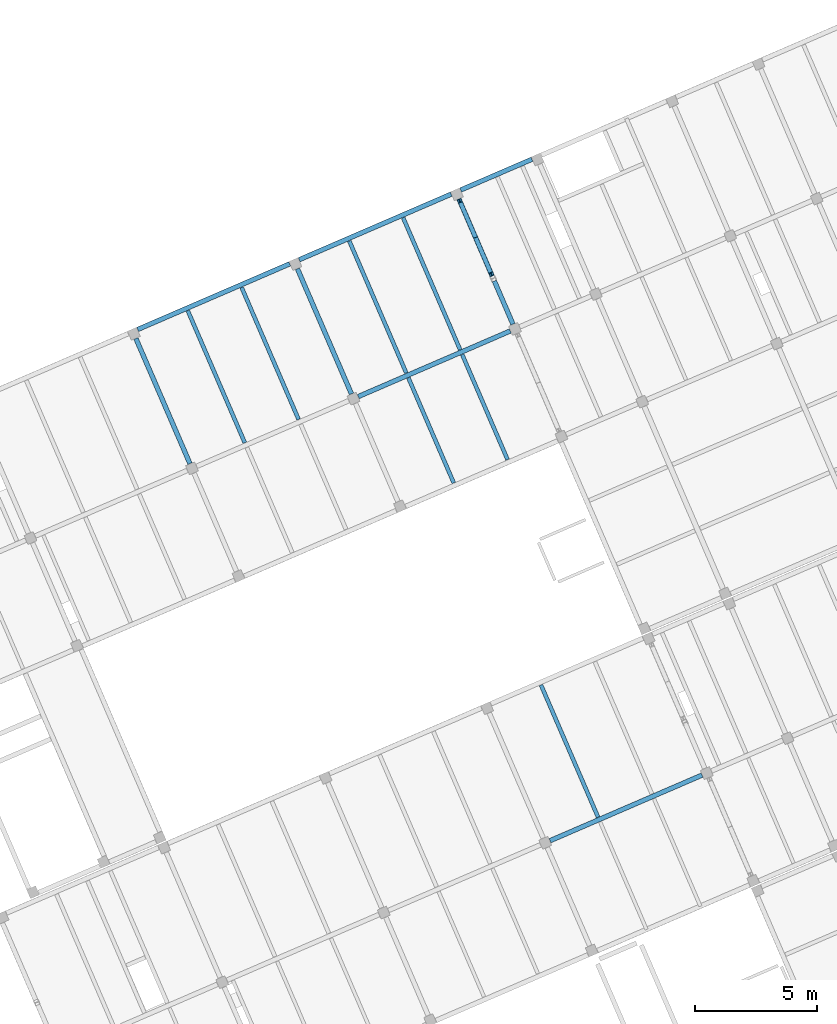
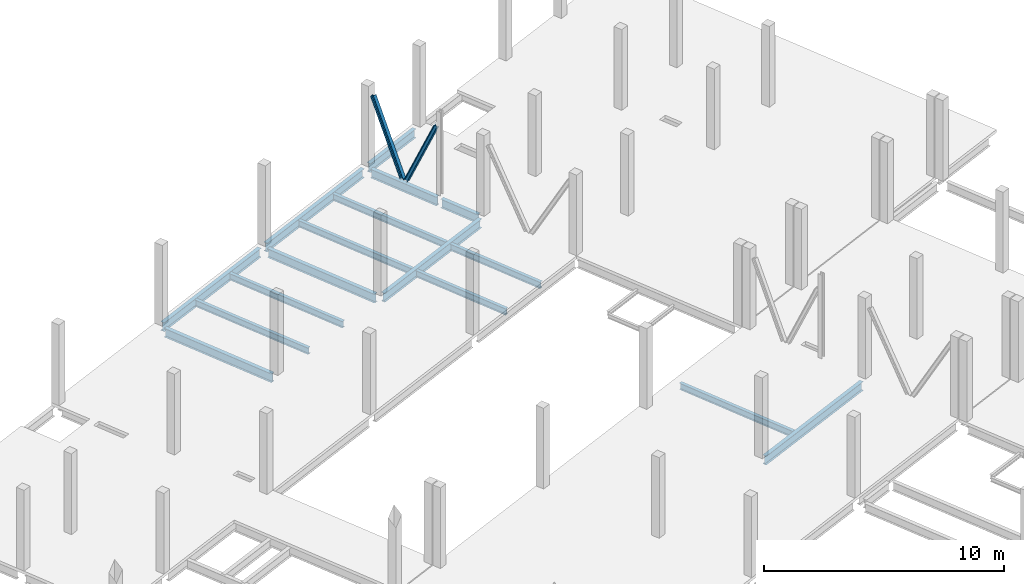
# One storey, part 16 of 24: 16 beams, 2 members.
"""IFC4 building model written with IfcOpenShell, lengths in metres."""

from ifc_helpers import new_model, entity, si_unit, converted_unit, derived_unit, direction, frame, origin, place, context, subcontext, project, spatial, line, arc, indexed_curve, outline, extrude, source, transform, mapped, material, type_object, type_shapes, element, save


model = new_model("IFC4")

# Units and contexts
model_context = context("Model", 3, precision=1e-05, world=origin(), true_north=direction((6.12323399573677e-17, 1.0)))
body_context = subcontext(model_context, "Body", "Model", "MODEL_VIEW")
ifc_project = project(units=[si_unit("LENGTHUNIT", "METRE"), si_unit("AREAUNIT", "SQUARE_METRE"), si_unit("VOLUMEUNIT", "CUBIC_METRE"), converted_unit("PLANEANGLEUNIT", "DEGREE", entity("IfcPlaneAngleMeasure", 0.0174532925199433), si_unit("PLANEANGLEUNIT", "RADIAN"), dimensions=[0, 0, 0, 0, 0, 0, 0]), si_unit("MASSUNIT", "GRAM", prefix="KILO"), derived_unit("MOMENTOFINERTIAUNIT", [(si_unit("LENGTHUNIT", "METRE"), 4)]), derived_unit("LINEARFORCEUNIT", [(si_unit("MASSUNIT", "GRAM", prefix="KILO"), 1), (si_unit("TIMEUNIT", "SECOND"), -2)]), derived_unit("WARPINGCONSTANTUNIT", [(si_unit("LENGTHUNIT", "METRE"), 6)]), derived_unit("THERMALTRANSMITTANCEUNIT", [(si_unit("MASSUNIT", "GRAM", prefix="KILO"), 1), (si_unit("THERMODYNAMICTEMPERATUREUNIT", "KELVIN"), -1), (si_unit("TIMEUNIT", "SECOND"), -3)]), derived_unit("USERDEFINED", [(si_unit("MASSUNIT", "GRAM", prefix="KILO"), 1), (si_unit("TIMEUNIT", "SECOND"), -2), (si_unit("THERMODYNAMICTEMPERATUREUNIT", "KELVIN"), -1)]), derived_unit("THERMALRESISTANCEUNIT", [(si_unit("MASSUNIT", "GRAM", prefix="KILO"), -1), (si_unit("TIMEUNIT", "SECOND"), 3), (si_unit("THERMODYNAMICTEMPERATUREUNIT", "KELVIN"), 1)])], contexts=[model_context])

# Site, building, storey
site_placement = place(None, origin())
site = spatial("IfcSite", under=ifc_project, at=site_placement, Name="Default", CompositionType="ELEMENT")
building_placement = place(site_placement, frame((12.6613425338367, -82.5732315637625, 317.15), z_axis=(0.0, 0.0, 1.0), x_axis=(-0.396377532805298, 0.918087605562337, 0.0)))
building = spatial("IfcBuilding", under=site, at=building_placement, Name="CESFAM Coyhaique", CompositionType="ELEMENT")
storey_placement = place(building_placement, frame((0.0, 0.0, 4.20000000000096)))
storey = spatial("IfcBuildingStorey", under=building, at=storey_placement, Name="Nivel 2", CompositionType="ELEMENT", Elevation=4.20000000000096)

# Beams
ifc_material = material(Name="Steel, 45-345", Category="Metal")
beam_type_1 = type_object("IfcBeamType", Name="M_W Shapes:W450X190mm", PredefinedType="BEAM", material=ifc_material)
shared_shape_1 = source(origin(), body_context, "Body", "SweptSolid", [
    extrude(outline(indexed_curve([(-0.0950000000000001, -0.225000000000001), (0.0950000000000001, -0.225000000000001), (0.0950000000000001, -0.21535), (0.0105699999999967, -0.21535), (0.00516063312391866, -0.213109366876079), (0.00291999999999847, -0.2077), (0.00291999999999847, 0.207699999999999), (0.00516063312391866, 0.213109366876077), (0.0105700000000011, 0.21535), (0.0950000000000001, 0.21535), (0.0950000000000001, 0.224999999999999), (-0.0950000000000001, 0.224999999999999), (-0.0950000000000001, 0.21535), (-0.0105700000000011, 0.215349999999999), (-0.00516063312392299, 0.213109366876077), (-0.0029200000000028, 0.207699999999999), (-0.0029200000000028, -0.2077), (-0.00516063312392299, -0.213109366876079), (-0.0105700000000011, -0.21535), (-0.0950000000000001, -0.21535)], segments=[line(1, 2, 3, 4), arc(4, 5, 6), line(6, 7), arc(7, 8, 9), line(9, 10, 11, 12, 13, 14), arc(14, 15, 16), line(16, 17), arc(17, 18, 19), line(19, 20, 1)], self_intersect=False)), frame((28.7688534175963, -11.384449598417, 3.82500000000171), z_axis=(0.0, 1.0, 0.0), x_axis=(-1.0, 0.0, 0.0)), (0.0, 0.0, 1.0), 6.7746),
])
type_shapes(beam_type_1, [shared_shape_1])
beam_1_placement = place(storey_placement, frame((0.0, 0.0, -4.20000000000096)))
element("IfcBeam", 1, at=beam_1_placement, inside=storey, type_object=beam_type_1, Name="M_W Shapes:W450X190mm", ObjectType="M_W Shapes:W450X190mm", PredefinedType="BEAM", context=body_context, shape_type="MappedRepresentation", body=[
    mapped(shared_shape_1, transform((0.0, 0.0, 0.0), scale=1.0)),
])
beam_type_2 = type_object("IfcBeamType", Name="M_W Shapes:W450X190mm", PredefinedType="BEAM", material=ifc_material)
shared_shape_2 = source(origin(), body_context, "Body", "SweptSolid", [
    extrude(outline(indexed_curve([(-0.0950000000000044, -0.225000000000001), (0.0949999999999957, -0.225000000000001), (0.0950000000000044, -0.21535), (0.0105699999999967, -0.21535), (0.00516063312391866, -0.213109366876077), (0.0029200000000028, -0.2077), (0.00291999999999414, 0.207699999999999), (0.00516063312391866, 0.213109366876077), (0.0105699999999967, 0.21535), (0.0949999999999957, 0.21535), (0.0949999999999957, 0.224999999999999), (-0.0950000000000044, 0.224999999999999), (-0.0950000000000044, 0.21535), (-0.0105700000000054, 0.215349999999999), (-0.00516063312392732, 0.213109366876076), (-0.0029200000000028, 0.207699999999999), (-0.0029200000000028, -0.2077), (-0.00516063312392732, -0.213109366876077), (-0.0105699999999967, -0.21535), (-0.0950000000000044, -0.21535)], segments=[line(1, 2, 3, 4), arc(4, 5, 6), line(6, 7), arc(7, 8, 9), line(9, 10, 11, 12, 13, 14), arc(14, 15, 16), line(16, 17), arc(17, 18, 19), line(19, 20, 1)], self_intersect=False)), frame((48.5688534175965, -11.384449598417, 3.82500000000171), z_axis=(0.0, 1.0, 0.0), x_axis=(-1.0, 0.0, 0.0)), (0.0, 0.0, 1.0), 6.7746),
])
type_shapes(beam_type_2, [shared_shape_2])
beam_2_placement = place(storey_placement, frame((0.0, 0.0, -4.20000000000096)))
element("IfcBeam", 2, at=beam_2_placement, inside=storey, type_object=beam_type_2, Name="M_W Shapes:W450X190mm", ObjectType="M_W Shapes:W450X190mm", PredefinedType="BEAM", context=body_context, shape_type="MappedRepresentation", body=[
    mapped(shared_shape_2, transform((0.0, 0.0, 0.0), scale=1.0)),
])
beam_type_3 = type_object("IfcBeamType", Name="M_W Shapes:W450X190mm", PredefinedType="BEAM", material=ifc_material)
shared_shape_3 = source(origin(), body_context, "Body", "SweptSolid", [
    extrude(outline(indexed_curve([(-0.0949999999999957, -0.225000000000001), (0.0950000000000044, -0.225000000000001), (0.0950000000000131, -0.21535), (0.0105700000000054, -0.21535), (0.00516063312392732, -0.213109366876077), (0.00292000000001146, -0.2077), (0.0029200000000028, 0.207699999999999), (0.00516063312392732, 0.213109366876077), (0.0105700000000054, 0.21535), (0.0950000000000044, 0.21535), (0.0950000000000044, 0.224999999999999), (-0.0949999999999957, 0.224999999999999), (-0.0949999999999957, 0.21535), (-0.0105699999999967, 0.215349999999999), (-0.00516063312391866, 0.213109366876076), (-0.00291999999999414, 0.207699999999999), (-0.00291999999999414, -0.2077), (-0.00516063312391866, -0.213109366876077), (-0.0105699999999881, -0.21535), (-0.0949999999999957, -0.21535)], segments=[line(1, 2, 3, 4), arc(4, 5, 6), line(6, 7), arc(7, 8, 9), line(9, 10, 11, 12, 13, 14), arc(14, 15, 16), line(16, 17), arc(17, 18, 19), line(19, 20, 1)], self_intersect=False)), frame((54.6688534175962, -11.384449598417, 3.82500000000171), z_axis=(0.0, 1.0, 0.0), x_axis=(-1.0, 0.0, 0.0)), (0.0, 0.0, 1.0), 6.7746),
])
type_shapes(beam_type_3, [shared_shape_3])
beam_3_placement = place(storey_placement, frame((0.0, 0.0, -4.20000000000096)))
element("IfcBeam", 3, at=beam_3_placement, inside=storey, type_object=beam_type_3, Name="M_W Shapes:W450X190mm", ObjectType="M_W Shapes:W450X190mm", PredefinedType="BEAM", context=body_context, shape_type="MappedRepresentation", body=[
    mapped(shared_shape_3, transform((0.0, 0.0, 0.0), scale=1.0)),
])
beam_type_4 = type_object("IfcBeamType", Name="M_W Shapes:W450X190mm", PredefinedType="BEAM", material=ifc_material)
shared_shape_4 = source(origin(), body_context, "Body", "SweptSolid", [
    extrude(outline(indexed_curve([(-0.0949999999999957, -0.225000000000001), (0.0950000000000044, -0.225000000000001), (0.0950000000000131, -0.21535), (0.0105700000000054, -0.21535), (0.00516063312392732, -0.213109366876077), (0.00292000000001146, -0.2077), (0.0029200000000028, 0.207699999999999), (0.00516063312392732, 0.213109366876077), (0.0105700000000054, 0.21535), (0.0950000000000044, 0.21535), (0.0950000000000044, 0.224999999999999), (-0.0949999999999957, 0.224999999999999), (-0.0949999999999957, 0.21535), (-0.0105699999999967, 0.215349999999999), (-0.00516063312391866, 0.213109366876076), (-0.00291999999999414, 0.207699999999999), (-0.00291999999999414, -0.2077), (-0.00516063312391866, -0.213109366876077), (-0.0105699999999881, -0.21535), (-0.0949999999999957, -0.21535)], segments=[line(1, 2, 3, 4), arc(4, 5, 6), line(6, 7), arc(7, 8, 9), line(9, 10, 11, 12, 13, 14), arc(14, 15, 16), line(16, 17), arc(17, 18, 19), line(19, 20, 1)], self_intersect=False)), frame((54.6688534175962, -14.9844495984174, 3.82500000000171), z_axis=(0.0, 1.0, 0.0), x_axis=(-1.0, 0.0, 0.0)), (0.0, 0.0, 1.0), 3.1746),
])
type_shapes(beam_type_4, [shared_shape_4])
beam_4_placement = place(storey_placement, frame((0.0, 0.0, -4.20000000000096)))
element("IfcBeam", 4, at=beam_4_placement, inside=storey, type_object=beam_type_4, Name="M_W Shapes:W450X190mm", ObjectType="M_W Shapes:W450X190mm", PredefinedType="BEAM", context=body_context, shape_type="MappedRepresentation", body=[
    mapped(shared_shape_4, transform((0.0, 0.0, 0.0), scale=1.0)),
])
beam_type_5 = type_object("IfcBeamType", Name="M_W Shapes:W450X190mm", PredefinedType="BEAM", material=ifc_material)
shared_shape_5 = source(origin(), body_context, "Body", "SweptSolid", [
    extrude(outline(indexed_curve([(-0.0950000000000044, -0.225000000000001), (0.0949999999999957, -0.225000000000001), (0.0950000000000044, -0.21535), (0.0105699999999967, -0.21535), (0.00516063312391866, -0.213109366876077), (0.0029200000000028, -0.2077), (0.00291999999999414, 0.207699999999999), (0.00516063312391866, 0.213109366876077), (0.0105699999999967, 0.21535), (0.0949999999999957, 0.21535), (0.0949999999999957, 0.224999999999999), (-0.0950000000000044, 0.224999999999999), (-0.0950000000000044, 0.21535), (-0.0105700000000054, 0.215349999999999), (-0.00516063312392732, 0.213109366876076), (-0.0029200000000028, 0.207699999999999), (-0.0029200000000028, -0.2077), (-0.00516063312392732, -0.213109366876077), (-0.0105699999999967, -0.21535), (-0.0950000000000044, -0.21535)], segments=[line(1, 2, 3, 4), arc(4, 5, 6), line(6, 7), arc(7, 8, 9), line(9, 10, 11, 12, 13, 14), arc(14, 15, 16), line(16, 17), arc(17, 18, 19), line(19, 20, 1)], self_intersect=False)), frame((54.6688534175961, -4.18444959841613, 3.82500000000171), z_axis=(0.0, 1.0, 0.0), x_axis=(-1.0, 0.0, 0.0)), (0.0, 0.0, 1.0), 6.7746),
])
type_shapes(beam_type_5, [shared_shape_5])
beam_5_placement = place(storey_placement, frame((0.0, 0.0, -4.20000000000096)))
element("IfcBeam", 5, at=beam_5_placement, inside=storey, type_object=beam_type_5, Name="M_W Shapes:W450X190mm", ObjectType="M_W Shapes:W450X190mm", PredefinedType="BEAM", context=body_context, shape_type="MappedRepresentation", body=[
    mapped(shared_shape_5, transform((0.0, 0.0, 0.0), scale=1.0)),
])
beam_type_6 = type_object("IfcBeamType", Name="M_W Shapes:W450X190mm", PredefinedType="BEAM", material=ifc_material)
shared_shape_6 = source(origin(), body_context, "Body", "SweptSolid", [
    extrude(outline(indexed_curve([(-0.225, -0.0950000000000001), (-0.215350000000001, -0.0949999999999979), (-0.21535, -0.0105699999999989), (-0.213109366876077, -0.00516063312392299), (-0.2077, -0.00291999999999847), (0.207699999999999, -0.00291999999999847), (0.213109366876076, -0.00516063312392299), (0.215349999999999, -0.0105699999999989), (0.215349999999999, -0.0950000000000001), (0.225, -0.0950000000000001), (0.225, 0.0950000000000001), (0.215349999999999, 0.0950000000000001), (0.215349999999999, 0.0105700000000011), (0.213109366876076, 0.00516063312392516), (0.207699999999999, 0.00292000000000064), (-0.2077, 0.00292000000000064), (-0.213109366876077, 0.00516063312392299), (-0.215350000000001, 0.0105700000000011), (-0.215350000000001, 0.0950000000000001), (-0.225, 0.0950000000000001)], segments=[line(1, 2, 3), arc(3, 4, 5), line(5, 6), arc(6, 7, 8), line(8, 9, 10, 11, 12, 13), arc(13, 14, 15), line(15, 16), arc(16, 17, 18), line(18, 19, 20, 1)], self_intersect=False)), frame((48.7815534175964, -11.5971495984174, 3.82500000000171), z_axis=(1.0, 0.0, 0.0), x_axis=(0.0, 0.0, -1.0)), (0.0, 0.0, 1.0), 1.9246),
])
type_shapes(beam_type_6, [shared_shape_6])
beam_6_placement = place(storey_placement, frame((0.0, 0.0, -4.20000000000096)))
element("IfcBeam", 6, at=beam_6_placement, inside=storey, type_object=beam_type_6, Name="M_W Shapes:W450X190mm", ObjectType="M_W Shapes:W450X190mm", PredefinedType="BEAM", context=body_context, shape_type="MappedRepresentation", body=[
    mapped(shared_shape_6, transform((0.0, 0.0, 0.0), scale=1.0)),
])
beam_type_7 = type_object("IfcBeamType", Name="M_W Shapes:W450X190mm", PredefinedType="BEAM", material=ifc_material)
shared_shape_7 = source(origin(), body_context, "Body", "SweptSolid", [
    extrude(outline(indexed_curve([(-0.225, -0.0950000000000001), (-0.215350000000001, -0.0950000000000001), (-0.21535, -0.01057), (-0.213109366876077, -0.00516063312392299), (-0.2077, -0.00291999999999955), (0.207699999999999, -0.00292000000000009), (0.213109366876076, -0.00516063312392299), (0.215349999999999, -0.01057), (0.215349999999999, -0.0950000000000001), (0.225, -0.0950000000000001), (0.225, 0.0950000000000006), (0.215349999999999, 0.0950000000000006), (0.215349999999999, 0.0105700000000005), (0.213109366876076, 0.00516063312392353), (0.207699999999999, 0.00292000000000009), (-0.2077, 0.00292000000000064), (-0.213109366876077, 0.00516063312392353), (-0.215350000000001, 0.0105700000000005), (-0.215350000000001, 0.0949999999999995), (-0.225, 0.0949999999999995)], segments=[line(1, 2, 3), arc(3, 4, 5), line(5, 6), arc(6, 7, 8), line(8, 9, 10, 11, 12, 13), arc(13, 14, 15), line(15, 16), arc(16, 17, 18), line(18, 19, 20, 1)], self_intersect=False)), frame((48.7815534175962, -4.39714959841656, 3.82500000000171), z_axis=(1.0, 0.0, 0.0), x_axis=(0.0, 0.0, -1.0)), (0.0, 0.0, 1.0), 5.5746),
])
type_shapes(beam_type_7, [shared_shape_7])
beam_7_placement = place(storey_placement, frame((0.0, 0.0, -4.20000000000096)))
element("IfcBeam", 7, at=beam_7_placement, inside=storey, type_object=beam_type_7, Name="M_W Shapes:W450X190mm", ObjectType="M_W Shapes:W450X190mm", PredefinedType="BEAM", context=body_context, shape_type="MappedRepresentation", body=[
    mapped(shared_shape_7, transform((0.0, 0.0, 0.0), scale=1.0)),
])
beam_type_8 = type_object("IfcBeamType", Name="M_W Shapes:W450X190mm", PredefinedType="BEAM", material=ifc_material)
shared_shape_8 = source(origin(), body_context, "Body", "SweptSolid", [
    extrude(outline(indexed_curve([(-0.225, -0.0950000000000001), (-0.215350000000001, -0.0950000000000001), (-0.21535, -0.01057), (-0.213109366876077, -0.00516063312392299), (-0.2077, -0.00291999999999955), (0.207699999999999, -0.00292000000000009), (0.213109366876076, -0.00516063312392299), (0.215349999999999, -0.01057), (0.215349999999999, -0.0950000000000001), (0.225, -0.0950000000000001), (0.225, 0.0950000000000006), (0.215349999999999, 0.0950000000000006), (0.215349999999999, 0.0105700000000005), (0.213109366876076, 0.00516063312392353), (0.207699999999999, 0.00292000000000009), (-0.2077, 0.00292000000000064), (-0.213109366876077, 0.00516063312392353), (-0.215350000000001, 0.0105700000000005), (-0.215350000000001, 0.0949999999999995), (-0.225, 0.0949999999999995)], segments=[line(1, 2, 3), arc(3, 4, 5), line(5, 6), arc(6, 7, 8), line(8, 9, 10, 11, 12, 13), arc(13, 14, 15), line(15, 16), arc(16, 17, 18), line(18, 19, 20, 1)], self_intersect=False)), frame((48.7815534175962, 2.8028504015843, 3.82500000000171), z_axis=(1.0, 0.0, 0.0), x_axis=(0.0, 0.0, -1.0)), (0.0, 0.0, 1.0), 5.5746),
])
type_shapes(beam_type_8, [shared_shape_8])
beam_8_placement = place(storey_placement, frame((0.0, 0.0, -4.20000000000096)))
element("IfcBeam", 8, at=beam_8_placement, inside=storey, type_object=beam_type_8, Name="M_W Shapes:W450X190mm", ObjectType="M_W Shapes:W450X190mm", PredefinedType="BEAM", context=body_context, shape_type="MappedRepresentation", body=[
    mapped(shared_shape_8, transform((0.0, 0.0, 0.0), scale=1.0)),
])
beam_type_9 = type_object("IfcBeamType", Name="M_W Shapes:W450X190mm", PredefinedType="BEAM", material=ifc_material)
shared_shape_9 = source(origin(), body_context, "Body", "SweptSolid", [
    extrude(outline(indexed_curve([(-0.225, -0.0950000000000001), (-0.215350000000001, -0.0950000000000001), (-0.21535, -0.0105699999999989), (-0.213109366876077, -0.00516063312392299), (-0.2077, -0.00291999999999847), (0.207699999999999, -0.00291999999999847), (0.213109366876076, -0.00516063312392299), (0.215349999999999, -0.0105699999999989), (0.215349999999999, -0.0950000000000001), (0.225, -0.0950000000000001), (0.225, 0.0950000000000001), (0.215349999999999, 0.0950000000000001), (0.215349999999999, 0.0105700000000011), (0.213109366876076, 0.00516063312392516), (0.207699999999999, 0.00292000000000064), (-0.2077, 0.00292000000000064), (-0.213109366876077, 0.00516063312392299), (-0.215350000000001, 0.0105700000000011), (-0.215350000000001, 0.0950000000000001), (-0.225, 0.0950000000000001)], segments=[line(1, 2, 3), arc(3, 4, 5), line(5, 6), arc(6, 7, 8), line(8, 9, 10, 11, 12, 13), arc(13, 14, 15), line(15, 16), arc(16, 17, 18), line(18, 19, 20, 1)], self_intersect=False)), frame((50.9315534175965, -11.5971495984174, 3.82500000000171), z_axis=(1.0, 0.0, 0.0), x_axis=(0.0, 0.0, -1.0)), (0.0, 0.0, 1.0), 3.4246),
])
type_shapes(beam_type_9, [shared_shape_9])
beam_9_placement = place(storey_placement, frame((0.0, 0.0, -4.20000000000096)))
element("IfcBeam", 9, at=beam_9_placement, inside=storey, type_object=beam_type_9, Name="M_W Shapes:W450X190mm", ObjectType="M_W Shapes:W450X190mm", PredefinedType="BEAM", context=body_context, shape_type="MappedRepresentation", body=[
    mapped(shared_shape_9, transform((0.0, 0.0, 0.0), scale=1.0)),
])

# Members
member_type_1 = type_object("IfcMemberType", Name="M_Double C-Channel:doble T HEB 180", PredefinedType="BRACE", material=ifc_material)
shared_shape_10 = source(origin(), body_context, "Body", "SweptSolid", [
    extrude(outline(indexed_curve([(-0.045425, -0.0899999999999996), (0.0445749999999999, -0.0899999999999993), (0.0397422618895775, -0.0783327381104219), (0.0280749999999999, -0.0735000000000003), (-0.0272249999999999, -0.0647413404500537), (-0.0272249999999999, 0.0647413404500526), (0.0280750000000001, 0.0734999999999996), (0.0397422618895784, 0.078332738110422), (0.044575, 0.0900000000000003), (-0.045425, 0.0900000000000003)], segments=[line(1, 2), arc(2, 3, 4), line(4, 5, 6, 7), arc(7, 8, 9), line(9, 10, 1)], self_intersect=False)), frame((-2.32011616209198, -0.0454249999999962, 0.0), z_axis=(1.0, 0.0, 0.0), x_axis=(0.0, -1.0, 0.0)), (0.0, 0.0, 1.0), 3.7580887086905),
    extrude(outline(indexed_curve([(-0.0899999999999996, -0.045425), (0.0900000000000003, -0.045425), (0.0900000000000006, 0.044575), (0.0783327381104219, 0.0397422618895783), (0.0734999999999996, 0.028075), (0.0647413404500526, -0.0272249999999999), (-0.0647413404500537, -0.0272249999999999), (-0.0735000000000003, 0.0280749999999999), (-0.0783327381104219, 0.0397422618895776), (-0.0899999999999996, 0.0445749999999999)], segments=[line(1, 2, 3), arc(3, 4, 5), line(5, 6, 7, 8), arc(8, 9, 10), line(10, 1)], self_intersect=False)), frame((-2.32011616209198, 0.0454250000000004, 0.0), z_axis=(1.0, 0.0, 0.0), x_axis=(0.0, 0.0, -1.0)), (0.0, 0.0, 1.0), 3.7580887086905),
])
type_shapes(member_type_1, [shared_shape_10])
member_1_placement = place(storey_placement, frame((51.5993709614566, -11.5971495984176, 2.08786676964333), z_axis=(0.910916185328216, 0.0, 0.412591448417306), x_axis=(-0.412591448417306, 0.0, 0.910916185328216)))
element("IfcMember", 10, at=member_1_placement, inside=storey, type_object=member_type_1, Name="M_Double C-Channel:doble T HEB 180", ObjectType="M_Double C-Channel:doble T HEB 180", PredefinedType="BRACE", context=body_context, shape_type="MappedRepresentation", body=[
    mapped(shared_shape_10, transform((0.0, 0.0, 0.0), scale=1.0)),
])
member_type_2 = type_object("IfcMemberType", Name="M_Double C-Channel:doble T HEB 180", PredefinedType="BRACE", material=ifc_material)
shared_shape_11 = source(origin(), body_context, "Body", "SweptSolid", [
    extrude(outline(indexed_curve([(-0.0899999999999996, -0.045425), (0.0900000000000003, -0.045425), (0.0900000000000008, 0.044575), (0.078332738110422, 0.0397422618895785), (0.0734999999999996, 0.028075), (0.0647413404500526, -0.0272249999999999), (-0.0647413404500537, -0.0272249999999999), (-0.0735000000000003, 0.0280749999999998), (-0.0783327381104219, 0.0397422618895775), (-0.0899999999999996, 0.0445749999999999)], segments=[line(1, 2, 3), arc(3, 4, 5), line(5, 6, 7, 8), arc(8, 9, 10), line(10, 1)], self_intersect=False)), frame((-2.29993513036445, 0.0454249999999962, 0.0), z_axis=(1.0, 0.0, 0.0), x_axis=(0.0, 0.0, -1.0)), (0.0, 0.0, 1.0), 3.92725271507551),
    extrude(outline(indexed_curve([(-0.045425, -0.0899999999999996), (0.0445749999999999, -0.0899999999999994), (0.0397422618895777, -0.078332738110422), (0.0280749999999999, -0.0735000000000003), (-0.0272249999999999, -0.0647413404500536), (-0.0272249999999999, 0.0647413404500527), (0.0280749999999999, 0.0734999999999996), (0.0397422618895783, 0.0783327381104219), (0.044575, 0.0900000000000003), (-0.045425, 0.0900000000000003)], segments=[line(1, 2), arc(2, 3, 4), line(4, 5, 6, 7), arc(7, 8, 9), line(9, 10, 1)], self_intersect=False)), frame((-2.29993513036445, -0.0454250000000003, 0.0), z_axis=(1.0, 0.0, 0.0), x_axis=(0.0, -1.0, 0.0)), (0.0, 0.0, 1.0), 3.92725271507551),
])
type_shapes(member_type_2, [shared_shape_11])
member_2_placement = place(storey_placement, frame((53.6390512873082, -11.5971495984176, 2.08948856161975), z_axis=(-0.918865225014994, 0.0, 0.394571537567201), x_axis=(0.3945715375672, 0.0, 0.918865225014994)))
element("IfcMember", 11, at=member_2_placement, inside=storey, type_object=member_type_2, Name="M_Double C-Channel:doble T HEB 180", ObjectType="M_Double C-Channel:doble T HEB 180", PredefinedType="BRACE", context=body_context, shape_type="MappedRepresentation", body=[
    mapped(shared_shape_11, transform((0.0, 0.0, 0.0), scale=1.0)),
])

# Beams
beam_type_10 = type_object("IfcBeamType", Name="M_W Shapes:W330X160mm", PredefinedType="BEAM", material=ifc_material)
shared_shape_12 = source(origin(), body_context, "Body", "SweptSolid", [
    extrude(outline(indexed_curve([(-0.164999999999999, -0.0800000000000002), (-0.15535, -0.0800000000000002), (-0.15535, -0.01057), (-0.153109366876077, -0.00516063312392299), (-0.1477, -0.00292000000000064), (0.1477, -0.00292000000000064), (0.153109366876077, -0.00516063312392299), (0.15535, -0.01057), (0.15535, -0.0800000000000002), (0.165, -0.0800000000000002), (0.165, 0.0800000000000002), (0.15535, 0.0800000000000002), (0.15535, 0.01057), (0.153109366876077, 0.00516063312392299), (0.1477, 0.00291999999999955), (-0.1477, 0.00291999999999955), (-0.153109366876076, 0.00516063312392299), (-0.15535, 0.01057), (-0.15535, 0.0799999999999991), (-0.164999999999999, 0.0799999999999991)], segments=[line(1, 2, 3), arc(3, 4, 5), line(5, 6), arc(6, 7, 8), line(8, 9, 10, 11, 12, 13), arc(13, 14, 15), line(15, 16), arc(16, 17, 18), line(18, 19, 20, 1)], self_intersect=False)), frame((48.6765534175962, -9.19714959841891, 3.88500000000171), z_axis=(1.0, 0.0, 0.0), x_axis=(0.0, 0.0, -1.0)), (0.0, 0.0, 1.0), 5.88460000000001),
])
type_shapes(beam_type_10, [shared_shape_12])
beam_10_placement = place(storey_placement, frame((0.0, 0.0, -4.20000000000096)))
element("IfcBeam", 12, at=beam_10_placement, inside=storey, type_object=beam_type_10, Name="M_W Shapes:W330X160mm", ObjectType="M_W Shapes:W330X160mm", PredefinedType="BEAM", context=body_context, shape_type="MappedRepresentation", body=[
    mapped(shared_shape_12, transform((0.0, 0.0, 0.0), scale=1.0)),
])
beam_type_11 = type_object("IfcBeamType", Name="M_W Shapes:W330X160mm", PredefinedType="BEAM", material=ifc_material)
shared_shape_13 = source(origin(), body_context, "Body", "SweptSolid", [
    extrude(outline(indexed_curve([(-0.164999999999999, -0.0799999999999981), (-0.15535, -0.0799999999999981), (-0.15535, -0.0105699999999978), (-0.153109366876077, -0.00516063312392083), (-0.1477, -0.00291999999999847), (0.1477, -0.00291999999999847), (0.153109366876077, -0.00516063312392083), (0.15535, -0.0105699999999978), (0.15535, -0.0799999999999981), (0.165, -0.0799999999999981), (0.165000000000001, 0.0800000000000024), (0.15535, 0.0800000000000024), (0.15535, 0.0105700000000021), (0.153109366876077, 0.00516063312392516), (0.1477, 0.00292000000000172), (-0.1477, 0.0029200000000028), (-0.153109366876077, 0.00516063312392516), (-0.15535, 0.0105700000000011), (-0.15535, 0.0800000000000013), (-0.164999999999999, 0.0800000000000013)], segments=[line(1, 2, 3), arc(3, 4, 5), line(5, 6), arc(6, 7, 8), line(8, 9, 10, 11, 12, 13), arc(13, 14, 15), line(15, 16), arc(16, 17, 18), line(18, 19, 20, 1)], self_intersect=False)), frame((43.7765534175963, -9.1971495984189, 3.88500000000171), z_axis=(1.0, 0.0, 0.0), x_axis=(0.0, 0.0, -1.0)), (0.0, 0.0, 1.0), 4.6846),
])
type_shapes(beam_type_11, [shared_shape_13])
beam_11_placement = place(storey_placement, frame((0.0, 0.0, -4.20000000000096)))
element("IfcBeam", 13, at=beam_11_placement, inside=storey, type_object=beam_type_11, Name="M_W Shapes:W330X160mm", ObjectType="M_W Shapes:W330X160mm", PredefinedType="BEAM", context=body_context, shape_type="MappedRepresentation", body=[
    mapped(shared_shape_13, transform((0.0, 0.0, 0.0), scale=1.0)),
])
beam_type_12 = type_object("IfcBeamType", Name="M_W Shapes:W330X160mm", PredefinedType="BEAM", material=ifc_material)
shared_shape_14 = source(origin(), body_context, "Body", "SweptSolid", [
    extrude(outline(indexed_curve([(-0.164999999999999, -0.0800000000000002), (-0.15535, -0.0800000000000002), (-0.15535, -0.01057), (-0.153109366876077, -0.00516063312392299), (-0.1477, -0.00292000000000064), (0.1477, -0.00292000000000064), (0.153109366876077, -0.00516063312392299), (0.15535, -0.01057), (0.15535, -0.0800000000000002), (0.165, -0.0800000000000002), (0.165, 0.0800000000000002), (0.15535, 0.0800000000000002), (0.15535, 0.01057), (0.153109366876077, 0.00516063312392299), (0.1477, 0.00291999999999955), (-0.1477, 0.00291999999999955), (-0.153109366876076, 0.00516063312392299), (-0.15535, 0.01057), (-0.15535, 0.0799999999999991), (-0.164999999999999, 0.0799999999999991)], segments=[line(1, 2, 3), arc(3, 4, 5), line(5, 6), arc(6, 7, 8), line(8, 9, 10, 11, 12, 13), arc(13, 14, 15), line(15, 16), arc(16, 17, 18), line(18, 19, 20, 1)], self_intersect=False)), frame((48.6765534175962, -6.79714959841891, 3.88500000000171), z_axis=(1.0, 0.0, 0.0), x_axis=(0.0, 0.0, -1.0)), (0.0, 0.0, 1.0), 5.88460000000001),
])
type_shapes(beam_type_12, [shared_shape_14])
beam_12_placement = place(storey_placement, frame((0.0, 0.0, -4.20000000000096)))
element("IfcBeam", 14, at=beam_12_placement, inside=storey, type_object=beam_type_12, Name="M_W Shapes:W330X160mm", ObjectType="M_W Shapes:W330X160mm", PredefinedType="BEAM", context=body_context, shape_type="MappedRepresentation", body=[
    mapped(shared_shape_14, transform((0.0, 0.0, 0.0), scale=1.0)),
])
beam_type_13 = type_object("IfcBeamType", Name="M_W Shapes:W330X160mm", PredefinedType="BEAM", material=ifc_material)
shared_shape_15 = source(origin(), body_context, "Body", "SweptSolid", [
    extrude(outline(indexed_curve([(-0.164999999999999, -0.0800000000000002), (-0.15535, -0.0800000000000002), (-0.15535, -0.01057), (-0.153109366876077, -0.00516063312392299), (-0.1477, -0.00292000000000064), (0.1477, -0.00292000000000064), (0.153109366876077, -0.00516063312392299), (0.15535, -0.01057), (0.15535, -0.0800000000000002), (0.165, -0.0800000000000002), (0.165000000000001, 0.0800000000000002), (0.15535, 0.0800000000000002), (0.15535, 0.01057), (0.153109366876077, 0.00516063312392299), (0.1477, 0.00291999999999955), (-0.1477, 0.00292000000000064), (-0.153109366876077, 0.00516063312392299), (-0.15535, 0.0105699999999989), (-0.15535, 0.0799999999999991), (-0.164999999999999, 0.0799999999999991)], segments=[line(1, 2, 3), arc(3, 4, 5), line(5, 6), arc(6, 7, 8), line(8, 9, 10, 11, 12, 13), arc(13, 14, 15), line(15, 16), arc(16, 17, 18), line(18, 19, 20, 1)], self_intersect=False)), frame((43.7765534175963, -6.79714959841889, 3.88500000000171), z_axis=(1.0, 0.0, 0.0), x_axis=(0.0, 0.0, -1.0)), (0.0, 0.0, 1.0), 4.6846),
])
type_shapes(beam_type_13, [shared_shape_15])
beam_13_placement = place(storey_placement, frame((0.0, 0.0, -4.20000000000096)))
element("IfcBeam", 15, at=beam_13_placement, inside=storey, type_object=beam_type_13, Name="M_W Shapes:W330X160mm", ObjectType="M_W Shapes:W330X160mm", PredefinedType="BEAM", context=body_context, shape_type="MappedRepresentation", body=[
    mapped(shared_shape_15, transform((0.0, 0.0, 0.0), scale=1.0)),
])
beam_type_14 = type_object("IfcBeamType", Name="M_W Shapes:W330X160mm", PredefinedType="BEAM", material=ifc_material)
shared_shape_16 = source(origin(), body_context, "Body", "SweptSolid", [
    extrude(outline(indexed_curve([(-0.164999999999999, -0.0799999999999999), (-0.15535, -0.0799999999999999), (-0.15535, -0.0105699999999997), (-0.153109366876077, -0.00516063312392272), (-0.1477, -0.00291999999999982), (0.1477, -0.00291999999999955), (0.153109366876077, -0.00516063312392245), (0.15535, -0.0105699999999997), (0.15535, -0.0799999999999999), (0.165, -0.0799999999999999), (0.165, 0.0800000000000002), (0.15535, 0.0800000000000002), (0.15535, 0.0105700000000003), (0.153109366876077, 0.00516063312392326), (0.1477, 0.00292000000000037), (-0.1477, 0.00292000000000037), (-0.153109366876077, 0.00516063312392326), (-0.15535, 0.0105700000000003), (-0.15535, 0.0799999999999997), (-0.164999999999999, 0.0799999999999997)], segments=[line(1, 2, 3), arc(3, 4, 5), line(5, 6), arc(6, 7, 8), line(8, 9, 10, 11, 12, 13), arc(13, 14, 15), line(15, 16), arc(16, 17, 18), line(18, 19, 20, 1)], self_intersect=False)), frame((48.6765534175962, -1.99714959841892, 3.88500000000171), z_axis=(1.0, 0.0, 0.0), x_axis=(0.0, 0.0, -1.0)), (0.0, 0.0, 1.0), 5.88460000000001),
])
type_shapes(beam_type_14, [shared_shape_16])
beam_14_placement = place(storey_placement, frame((0.0, 0.0, -4.20000000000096)))
element("IfcBeam", 16, at=beam_14_placement, inside=storey, type_object=beam_type_14, Name="M_W Shapes:W330X160mm", ObjectType="M_W Shapes:W330X160mm", PredefinedType="BEAM", context=body_context, shape_type="MappedRepresentation", body=[
    mapped(shared_shape_16, transform((0.0, 0.0, 0.0), scale=1.0)),
])
beam_type_15 = type_object("IfcBeamType", Name="M_W Shapes:W330X160mm", PredefinedType="BEAM", material=ifc_material)
shared_shape_17 = source(origin(), body_context, "Body", "SweptSolid", [
    extrude(outline(indexed_curve([(-0.164999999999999, -0.0800000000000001), (-0.15535, -0.0800000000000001), (-0.15535, -0.01057), (-0.153109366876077, -0.00516063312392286), (-0.1477, -0.00291999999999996), (0.1477, -0.00291999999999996), (0.153109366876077, -0.00516063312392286), (0.15535, -0.01057), (0.15535, -0.0800000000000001), (0.165, -0.0800000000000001), (0.165, 0.0800000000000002), (0.15535, 0.0800000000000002), (0.15535, 0.0105700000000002), (0.153109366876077, 0.00516063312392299), (0.1477, 0.00292000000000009), (-0.1477, 0.00292000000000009), (-0.153109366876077, 0.00516063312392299), (-0.15535, 0.0105700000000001), (-0.15535, 0.0799999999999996), (-0.164999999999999, 0.0799999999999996)], segments=[line(1, 2, 3), arc(3, 4, 5), line(5, 6), arc(6, 7, 8), line(8, 9, 10, 11, 12, 13), arc(13, 14, 15), line(15, 16), arc(16, 17, 18), line(18, 19, 20, 1)], self_intersect=False)), frame((48.6765534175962, 0.402850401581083, 3.88500000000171), z_axis=(1.0, 0.0, 0.0), x_axis=(0.0, 0.0, -1.0)), (0.0, 0.0, 1.0), 5.88460000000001),
])
type_shapes(beam_type_15, [shared_shape_17])
beam_15_placement = place(storey_placement, frame((0.0, 0.0, -4.20000000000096)))
element("IfcBeam", 17, at=beam_15_placement, inside=storey, type_object=beam_type_15, Name="M_W Shapes:W330X160mm", ObjectType="M_W Shapes:W330X160mm", PredefinedType="BEAM", context=body_context, shape_type="MappedRepresentation", body=[
    mapped(shared_shape_17, transform((0.0, 0.0, 0.0), scale=1.0)),
])
beam_type_16 = type_object("IfcBeamType", Name="M_W Shapes:W330X160mm", PredefinedType="BEAM", material=ifc_material)
shared_shape_18 = source(origin(), body_context, "Body", "SweptSolid", [
    extrude(outline(indexed_curve([(-0.164999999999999, -0.0799999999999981), (-0.15535, -0.0799999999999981), (-0.15535, -0.0105699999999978), (-0.153109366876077, -0.00516063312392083), (-0.1477, -0.00291999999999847), (0.1477, -0.00291999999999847), (0.153109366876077, -0.00516063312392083), (0.15535, -0.0105699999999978), (0.15535, -0.0799999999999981), (0.165, -0.0799999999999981), (0.165000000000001, 0.0800000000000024), (0.15535, 0.0800000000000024), (0.15535, 0.0105700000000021), (0.153109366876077, 0.00516063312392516), (0.1477, 0.00292000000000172), (-0.1477, 0.0029200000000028), (-0.153109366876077, 0.00516063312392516), (-0.15535, 0.0105700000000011), (-0.15535, 0.0800000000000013), (-0.164999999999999, 0.0800000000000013)], segments=[line(1, 2, 3), arc(3, 4, 5), line(5, 6), arc(6, 7, 8), line(8, 9, 10, 11, 12, 13), arc(13, 14, 15), line(15, 16), arc(16, 17, 18), line(18, 19, 20, 1)], self_intersect=False)), frame((28.8765534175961, -6.79714959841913, 3.88500000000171), z_axis=(1.0, 0.0, 0.0), x_axis=(0.0, 0.0, -1.0)), (0.0, 0.0, 1.0), 5.8896),
])
type_shapes(beam_type_16, [shared_shape_18])
beam_16_placement = place(storey_placement, frame((0.0, 0.0, -4.20000000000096)))
element("IfcBeam", 18, at=beam_16_placement, inside=storey, type_object=beam_type_16, Name="M_W Shapes:W330X160mm", ObjectType="M_W Shapes:W330X160mm", PredefinedType="BEAM", context=body_context, shape_type="MappedRepresentation", body=[
    mapped(shared_shape_18, transform((0.0, 0.0, 0.0), scale=1.0)),
])

save(model, "model.ifc")
